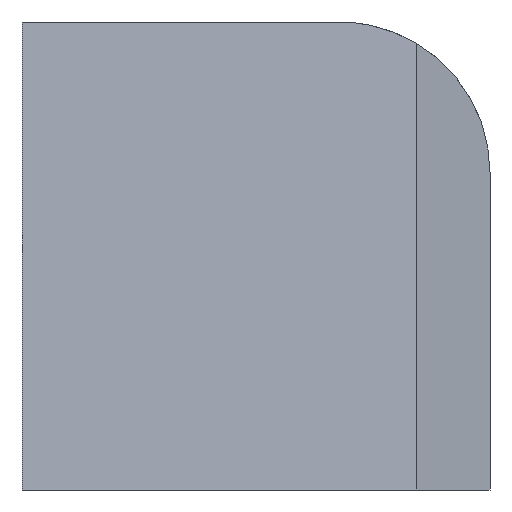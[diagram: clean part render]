
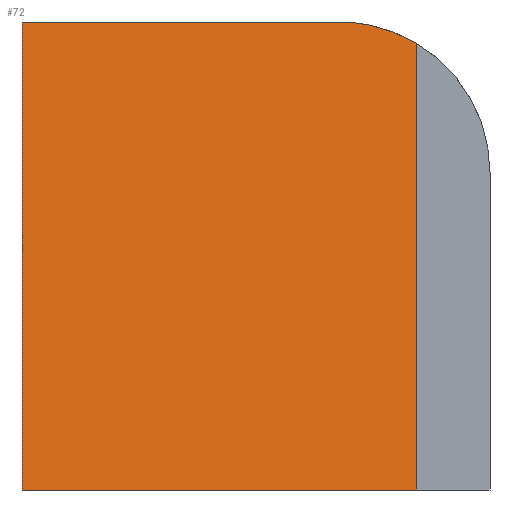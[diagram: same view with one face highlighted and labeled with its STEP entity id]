
A CAD part, front view. The second image highlights one B-rep face of the part: STEP entity #72.
In plain terms, the highlighted planar face has unit normal (0, -0.993, 0.12).
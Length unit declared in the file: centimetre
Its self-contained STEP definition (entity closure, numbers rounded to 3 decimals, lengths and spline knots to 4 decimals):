
#1 = VERTEX_POINT ( 'NONE', #61 ) ;
#35 = EDGE_CURVE ( 'NONE', #189, #328, #346, .T. ) ;
#37 = CARTESIAN_POINT ( 'NONE',  ( 0., 227.1416, 1000. ) ) ;
#48 = EDGE_LOOP ( 'NONE', ( #210, #203, #197, #139, #156 ) ) ;
#50 = VERTEX_POINT ( 'NONE', #464 ) ;
#52 = VECTOR ( 'NONE', #180, 100. ) ;
#54 = CARTESIAN_POINT ( 'NONE',  ( 842.8869, 221.6221, 954.517 ) ) ;
#55 = DIRECTION ( 'NONE',  ( 0., 0.12, 0.993 ) ) ;
#61 = CARTESIAN_POINT ( 'NONE',  ( 842.8869, 221.6221, 954.517 ) ) ;
#62 = PLANE ( 'NONE',  #155 ) ;
#64 = DIRECTION ( 'NONE',  ( -1., 0., 0. ) ) ;
#71 = LINE ( 'NONE', #37, #52 ) ;
#72 = ADVANCED_FACE ( 'NONE', ( #134 ), #62, .F. ) ;
#130 = CARTESIAN_POINT ( 'NONE',  ( 677.8549, 227.1416, 1000. ) ) ;
#134 = FACE_OUTER_BOUND ( 'NONE', #48, .T. ) ;
#135 = VECTOR ( 'NONE', #64, 100. ) ;
#139 = ORIENTED_EDGE ( 'NONE', *, *, #379, .F. ) ;
#155 = AXIS2_PLACEMENT_3D ( 'NONE', #426, #163, #55 ) ;
#156 = ORIENTED_EDGE ( 'NONE', *, *, #275, .F. ) ;
#163 = DIRECTION ( 'NONE',  ( 0., 0.993, -0.12 ) ) ;
#166 =( BOUNDED_CURVE ( )  B_SPLINE_CURVE ( 3, ( #54, #347, #419, #130 ),
 .UNSPECIFIED., .F., .F. ) 
 B_SPLINE_CURVE_WITH_KNOTS ( ( 4, 4 ),
 ( 2.6037, 3.1416 ),
 .UNSPECIFIED. ) 
 CURVE ( )  GEOMETRIC_REPRESENTATION_ITEM ( )  RATIONAL_B_SPLINE_CURVE ( ( 1., 0.976, 0.976, 1. ) ) 
 REPRESENTATION_ITEM ( '' )  );
#180 = DIRECTION ( 'NONE',  ( 0., -0.12, -0.993 ) ) ;
#189 = VERTEX_POINT ( 'NONE', #360 ) ;
#197 = ORIENTED_EDGE ( 'NONE', *, *, #451, .T. ) ;
#203 = ORIENTED_EDGE ( 'NONE', *, *, #35, .T. ) ;
#204 = CARTESIAN_POINT ( 'NONE',  ( 842.8869, 227.1416, 1000. ) ) ;
#210 = ORIENTED_EDGE ( 'NONE', *, *, #341, .T. ) ;
#213 = CARTESIAN_POINT ( 'NONE',  ( 842.8869, 105.7887, 0. ) ) ;
#267 = LINE ( 'NONE', #213, #405 ) ;
#270 = CARTESIAN_POINT ( 'NONE',  ( 0., 227.1416, 1000. ) ) ;
#275 = EDGE_CURVE ( 'NONE', #1, #386, #398, .T. ) ;
#328 = VERTEX_POINT ( 'NONE', #270 ) ;
#341 = EDGE_CURVE ( 'NONE', #1, #189, #166, .T. ) ;
#346 = LINE ( 'NONE', #204, #135 ) ;
#347 = CARTESIAN_POINT ( 'NONE',  ( 792.6786, 225.2566, 984.4668 ) ) ;
#360 = CARTESIAN_POINT ( 'NONE',  ( 677.8549, 227.1416, 1000. ) ) ;
#362 = CARTESIAN_POINT ( 'NONE',  ( 842.8869, 227.1416, 1000. ) ) ;
#379 = EDGE_CURVE ( 'NONE', #386, #50, #267, .T. ) ;
#381 = DIRECTION ( 'NONE',  ( -1., 0., 0. ) ) ;
#386 = VERTEX_POINT ( 'NONE', #416 ) ;
#387 = VECTOR ( 'NONE', #433, 100. ) ;
#398 = LINE ( 'NONE', #362, #387 ) ;
#405 = VECTOR ( 'NONE', #381, 100. ) ;
#416 = CARTESIAN_POINT ( 'NONE',  ( 842.8869, 105.7887, 0. ) ) ;
#419 = CARTESIAN_POINT ( 'NONE',  ( 736.3174, 227.1416, 1000. ) ) ;
#426 = CARTESIAN_POINT ( 'NONE',  ( 842.8869, 227.1416, 1000. ) ) ;
#433 = DIRECTION ( 'NONE',  ( 0., -0.12, -0.993 ) ) ;
#451 = EDGE_CURVE ( 'NONE', #328, #50, #71, .T. ) ;
#464 = CARTESIAN_POINT ( 'NONE',  ( 0., 105.7887, 0. ) ) ;
